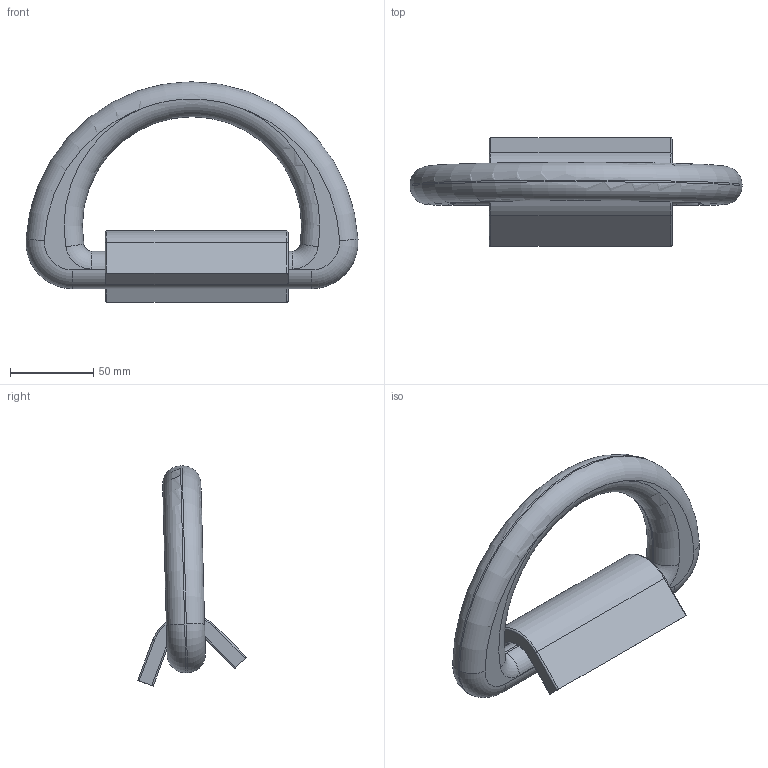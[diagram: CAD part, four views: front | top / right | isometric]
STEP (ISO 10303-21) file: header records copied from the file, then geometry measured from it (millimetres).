
FILE_DESCRIPTION(/* description */ (''),/* implementation_level */ '2;1');
FILE_NAME(/* name */ 'O:\ils2000\Natallia\INVENTOR\AutoCAD stp\NAVACQS\LP-11.stp',/* time_stamp */ '2016-08-12T11:51:39+02:00',/* author */ ('natallia'),/* organization */ (''),/* preprocessor_version */ 'ST-DEVELOPER v16.5',/* originating_system */ 'Autodesk Inventor 2017',/* authorisation */ '');
FILE_SCHEMA (('AUTOMOTIVE_DESIGN { 1 0 10303 214 3 1 1 }'));
Length unit declared in the file: millimetre
Products named in the file (3): LP-11; LP-11-R; LP-11-S
Assembly tree (2 placements, depth 2):
  LP-11
    LP-11-R
    LP-11-S
Bounding box: 199.76 x 65.4 x 132.52 mm (x, y, z)
Volume: 313945.5 mm3; surface area: 58407 mm2
Topology: 2 solids, 2 shells, 48 faces, 114 edges, 68 vertices
Faces by surface type: cylinder 20, torus 16, plane 12
Entity records: 1530 total; most frequent: DIRECTION 286, CARTESIAN_POINT 253, ORIENTED_EDGE 228, AXIS2_PLACEMENT_3D 121, EDGE_CURVE 114, CIRCLE 68, VERTEX_POINT 68, FACE_OUTER_BOUND 48
